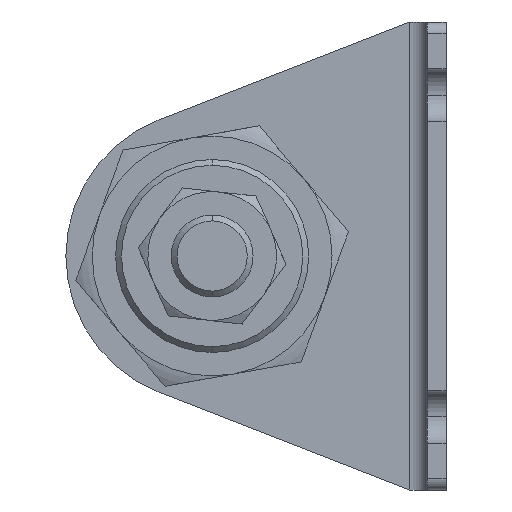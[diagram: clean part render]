
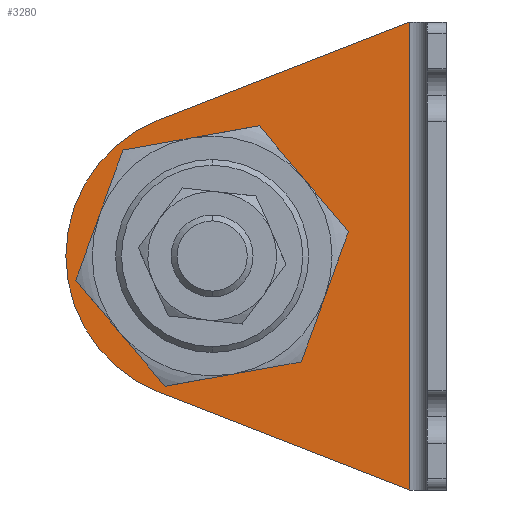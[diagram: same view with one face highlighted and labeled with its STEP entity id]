
A CAD part, left-side view. The second image highlights one B-rep face of the part: STEP entity #3280.
In plain terms, the highlighted planar face has unit normal (-1, 0, 0) as drawn and (1, 0, 0) by its records, which use the part's own axes.
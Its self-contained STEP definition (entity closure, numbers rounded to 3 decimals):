
#74 = DIRECTION ( 'NONE',  ( 1., 0., 0. ) ) ;
#437 = DIRECTION ( 'NONE',  ( 0., 0.932, -0.363 ) ) ;
#576 = DIRECTION ( 'NONE',  ( 0., 1., 0. ) ) ;
#663 = AXIS2_PLACEMENT_3D ( 'NONE', #5335, #1037, #4287 ) ;
#684 = CARTESIAN_POINT ( 'NONE',  ( 3.2, 3.595, -81.015 ) ) ;
#824 = AXIS2_PLACEMENT_3D ( 'NONE', #1214, #3188, #4443 ) ;
#837 = ORIENTED_EDGE ( 'NONE', *, *, #1821, .F. ) ;
#1030 = LINE ( 'NONE', #4089, #4252 ) ;
#1037 = DIRECTION ( 'NONE',  ( 1., 0., 0. ) ) ;
#1057 = AXIS2_PLACEMENT_3D ( 'NONE', #3256, #74, #1845 ) ;
#1066 = FACE_BOUND ( 'NONE', #4796, .T. ) ;
#1214 = CARTESIAN_POINT ( 'NONE',  ( 3.2, 40., -40. ) ) ;
#1350 = EDGE_CURVE ( 'NONE', #4188, #4905, #1718, .T. ) ;
#1383 = VECTOR ( 'NONE', #437, 1000. ) ;
#1559 = DIRECTION ( 'NONE',  ( 1., 0., 0. ) ) ;
#1617 = VERTEX_POINT ( 'NONE', #2669 ) ;
#1718 = CIRCLE ( 'NONE', #824, 16.5 ) ;
#1821 = EDGE_CURVE ( 'NONE', #4658, #4144, #5657, .T. ) ;
#1845 = DIRECTION ( 'NONE',  ( 0., 1., 0. ) ) ;
#2127 = VECTOR ( 'NONE', #3665, 1000. ) ;
#2208 = CARTESIAN_POINT ( 'NONE',  ( 3.2, 49.076, -63.294 ) ) ;
#2219 = VERTEX_POINT ( 'NONE', #4536 ) ;
#2265 = CARTESIAN_POINT ( 'NONE',  ( 3.2, 49.076, -16.706 ) ) ;
#2324 = CARTESIAN_POINT ( 'NONE',  ( 3.2, 23.5, -40. ) ) ;
#2495 = PLANE ( 'NONE',  #1057 ) ;
#2549 = CARTESIAN_POINT ( 'NONE',  ( 3.2, 40., -40. ) ) ;
#2669 = CARTESIAN_POINT ( 'NONE',  ( 3.2, 65., -40. ) ) ;
#2767 = ORIENTED_EDGE ( 'NONE', *, *, #5355, .F. ) ;
#2799 = EDGE_CURVE ( 'NONE', #1617, #4144, #4343, .T. ) ;
#2903 = AXIS2_PLACEMENT_3D ( 'NONE', #3756, #1559, #4302 ) ;
#2960 = CIRCLE ( 'NONE', #4138, 25. ) ;
#3173 = EDGE_CURVE ( 'NONE', #2219, #3203, #4581, .T. ) ;
#3188 = DIRECTION ( 'NONE',  ( 1., 0., 0. ) ) ;
#3203 = VERTEX_POINT ( 'NONE', #2208 ) ;
#3212 = DIRECTION ( 'NONE',  ( 0., 0., -1. ) ) ;
#3256 = CARTESIAN_POINT ( 'NONE',  ( 3.2, 3.2, -80. ) ) ;
#3280 = ADVANCED_FACE ( 'NONE', ( #1066, #5285 ), #2495, .T. ) ;
#3665 = DIRECTION ( 'NONE',  ( 0., 0.932, 0.363 ) ) ;
#3756 = CARTESIAN_POINT ( 'NONE',  ( 3.2, 40., -40. ) ) ;
#3786 = CARTESIAN_POINT ( 'NONE',  ( 3.2, 6.2, 0. ) ) ;
#3915 = ORIENTED_EDGE ( 'NONE', *, *, #2799, .T. ) ;
#3951 = CARTESIAN_POINT ( 'NONE',  ( 3.2, 30.657, -9.529 ) ) ;
#4089 = CARTESIAN_POINT ( 'NONE',  ( 3.2, 6.2, -80. ) ) ;
#4138 = AXIS2_PLACEMENT_3D ( 'NONE', #2549, #4468, #576 ) ;
#4144 = VERTEX_POINT ( 'NONE', #2265 ) ;
#4188 = VERTEX_POINT ( 'NONE', #5241 ) ;
#4252 = VECTOR ( 'NONE', #3212, 1000. ) ;
#4270 = ORIENTED_EDGE ( 'NONE', *, *, #1350, .F. ) ;
#4287 = DIRECTION ( 'NONE',  ( 0., 1., 0. ) ) ;
#4302 = DIRECTION ( 'NONE',  ( 0., 1., 0. ) ) ;
#4343 = CIRCLE ( 'NONE', #2903, 25. ) ;
#4392 = EDGE_LOOP ( 'NONE', ( #4453, #4758, #3915, #837, #4792 ) ) ;
#4443 = DIRECTION ( 'NONE',  ( 0., 1., 0. ) ) ;
#4453 = ORIENTED_EDGE ( 'NONE', *, *, #3173, .T. ) ;
#4468 = DIRECTION ( 'NONE',  ( 1., 0., 0. ) ) ;
#4536 = CARTESIAN_POINT ( 'NONE',  ( 3.2, 6.2, -80. ) ) ;
#4581 = LINE ( 'NONE', #684, #2127 ) ;
#4658 = VERTEX_POINT ( 'NONE', #3786 ) ;
#4758 = ORIENTED_EDGE ( 'NONE', *, *, #5443, .T. ) ;
#4792 = ORIENTED_EDGE ( 'NONE', *, *, #5246, .T. ) ;
#4796 = EDGE_LOOP ( 'NONE', ( #4270, #2767 ) ) ;
#4905 = VERTEX_POINT ( 'NONE', #2324 ) ;
#5166 = CIRCLE ( 'NONE', #663, 16.5 ) ;
#5241 = CARTESIAN_POINT ( 'NONE',  ( 3.2, 56.5, -40. ) ) ;
#5246 = EDGE_CURVE ( 'NONE', #4658, #2219, #1030, .T. ) ;
#5285 = FACE_OUTER_BOUND ( 'NONE', #4392, .T. ) ;
#5335 = CARTESIAN_POINT ( 'NONE',  ( 3.2, 40., -40. ) ) ;
#5355 = EDGE_CURVE ( 'NONE', #4905, #4188, #5166, .T. ) ;
#5443 = EDGE_CURVE ( 'NONE', #3203, #1617, #2960, .T. ) ;
#5657 = LINE ( 'NONE', #3951, #1383 ) ;
